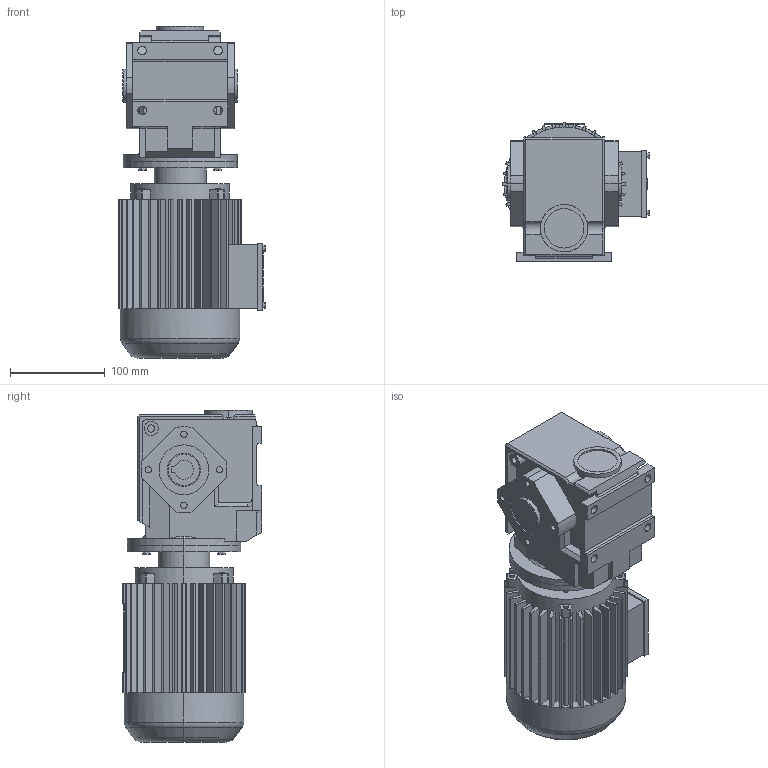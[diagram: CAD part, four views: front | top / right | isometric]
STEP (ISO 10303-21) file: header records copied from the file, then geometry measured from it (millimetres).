
FILE_DESCRIPTION(('Open CASCADE Model'),'2;1');
FILE_NAME('Open CASCADE Shape Model','2018-09-09T09:20:14',('Author'),( 'Open CASCADE'),'Open CASCADE STEP processor 6.3','Open CASCADE 6.3' ,'Unknown');
FILE_SCHEMA(('AUTOMOTIVE_DESIGN_CC2 { 1 2 10303 214 -1 1 5 4 }'));
Length unit declared in the file: millimetre
Products named in the file (4): 283_SA37-Y63S-A-W; SA37_37.step; 萇儂_120_Y63S.step; す瑩諾陑粣S_37_20.step
Assembly tree (3 placements, depth 2):
  283_SA37-Y63S-A-W
    SA37_37.step
    萇儂_120_Y63S.step
    す瑩諾陑粣S_37_20.step
Bounding box: 155 x 147 x 350 mm (x, y, z)
Volume: 3689999.3 mm3; surface area: 369090.9 mm2
Topology: 3 solids, 3 shells, 639 faces, 1678 edges, 1082 vertices
Faces by surface type: plane 440, cylinder 184, cone 11, torus 4
Entity records: 42918 total; most frequent: CARTESIAN_POINT 11045, DIRECTION 5521, ORIENTED_EDGE 3356, PCURVE 3356, DEFINITIONAL_REPRESENTATION 3356, LINE 2910, VECTOR 2910, EDGE_CURVE 1678
